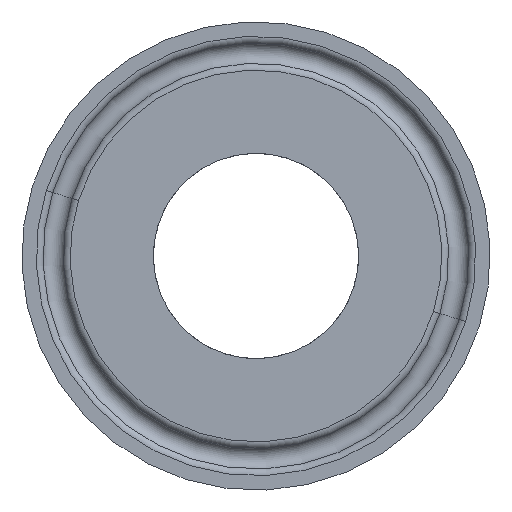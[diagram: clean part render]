
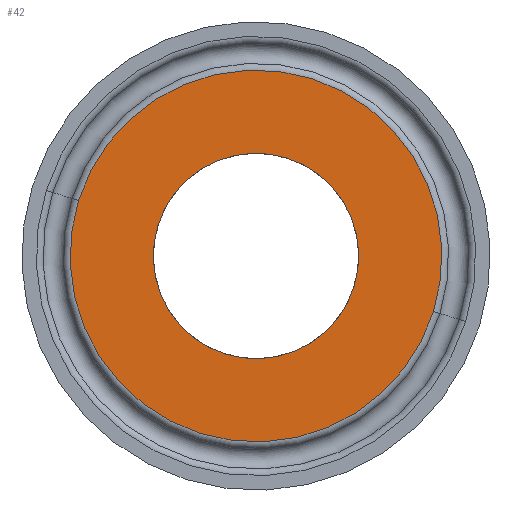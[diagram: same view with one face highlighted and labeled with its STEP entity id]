
A CAD part, left-side view. The second image highlights one B-rep face of the part: STEP entity #42.
In plain terms, the highlighted planar face has unit normal (-1, 0, 0) as drawn and (0, -1, 0) by its records, which use the part's own axes.
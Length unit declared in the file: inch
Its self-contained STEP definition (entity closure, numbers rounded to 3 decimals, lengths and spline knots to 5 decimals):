
#19 = AXIS2_PLACEMENT_3D ( 'NONE', #1581, #900, #4860 ) ;
#37 = CARTESIAN_POINT ( 'NONE',  ( 0., 0., 0. ) ) ;
#42 = ADVANCED_FACE ( 'NONE', ( #1713, #3606 ), #1038, .F. ) ;
#54 = ORIENTED_EDGE ( 'NONE', *, *, #4111, .T. ) ;
#286 = VERTEX_POINT ( 'NONE', #1290 ) ;
#308 = CIRCLE ( 'NONE', #2597, 0.78742 ) ;
#652 = EDGE_CURVE ( 'NONE', #286, #5933, #2720, .T. ) ;
#866 = EDGE_CURVE ( 'NONE', #5933, #286, #7550, .T. ) ;
#900 = DIRECTION ( 'NONE',  ( 0., 1., 0. ) ) ;
#1038 = PLANE ( 'NONE',  #19 ) ;
#1290 = CARTESIAN_POINT ( 'NONE',  ( 0., 0., 0.435 ) ) ;
#1509 = DIRECTION ( 'NONE',  ( 0., -1., 0. ) ) ;
#1555 = CARTESIAN_POINT ( 'NONE',  ( 0., 0., -0.78742 ) ) ;
#1581 = CARTESIAN_POINT ( 'NONE',  ( 0., 0., 0. ) ) ;
#1713 = FACE_BOUND ( 'NONE', #5210, .T. ) ;
#1838 = CARTESIAN_POINT ( 'NONE',  ( 0., 0., 0. ) ) ;
#2069 = CARTESIAN_POINT ( 'NONE',  ( 0., 0., -0.435 ) ) ;
#2304 = VERTEX_POINT ( 'NONE', #6570 ) ;
#2380 = EDGE_LOOP ( 'NONE', ( #2882, #54 ) ) ;
#2597 = AXIS2_PLACEMENT_3D ( 'NONE', #5772, #1509, #6020 ) ;
#2720 = CIRCLE ( 'NONE', #7154, 0.435 ) ;
#2882 = ORIENTED_EDGE ( 'NONE', *, *, #3037, .T. ) ;
#3037 = EDGE_CURVE ( 'NONE', #4504, #2304, #308, .T. ) ;
#3243 = DIRECTION ( 'NONE',  ( 0., 0., -1. ) ) ;
#3342 = DIRECTION ( 'NONE',  ( 0., -1., 0. ) ) ;
#3384 = DIRECTION ( 'NONE',  ( 0., 0., -1. ) ) ;
#3606 = FACE_OUTER_BOUND ( 'NONE', #2380, .T. ) ;
#3749 = ORIENTED_EDGE ( 'NONE', *, *, #866, .F. ) ;
#4111 = EDGE_CURVE ( 'NONE', #2304, #4504, #7299, .T. ) ;
#4405 = DIRECTION ( 'NONE',  ( 0., -1., 0. ) ) ;
#4504 = VERTEX_POINT ( 'NONE', #1555 ) ;
#4860 = DIRECTION ( 'NONE',  ( 0., 0., 1. ) ) ;
#5210 = EDGE_LOOP ( 'NONE', ( #3749, #7734 ) ) ;
#5233 = CARTESIAN_POINT ( 'NONE',  ( 0., 0., 0. ) ) ;
#5408 = AXIS2_PLACEMENT_3D ( 'NONE', #5233, #3342, #3384 ) ;
#5772 = CARTESIAN_POINT ( 'NONE',  ( 0., 0., 0. ) ) ;
#5933 = VERTEX_POINT ( 'NONE', #2069 ) ;
#5962 = AXIS2_PLACEMENT_3D ( 'NONE', #37, #7152, #3243 ) ;
#6020 = DIRECTION ( 'NONE',  ( 0., 0., -1. ) ) ;
#6570 = CARTESIAN_POINT ( 'NONE',  ( 0., 0., 0.78742 ) ) ;
#6895 = DIRECTION ( 'NONE',  ( 0., 0., -1. ) ) ;
#7152 = DIRECTION ( 'NONE',  ( 0., -1., 0. ) ) ;
#7154 = AXIS2_PLACEMENT_3D ( 'NONE', #1838, #4405, #6895 ) ;
#7299 = CIRCLE ( 'NONE', #5962, 0.78742 ) ;
#7550 = CIRCLE ( 'NONE', #5408, 0.435 ) ;
#7734 = ORIENTED_EDGE ( 'NONE', *, *, #652, .F. ) ;
